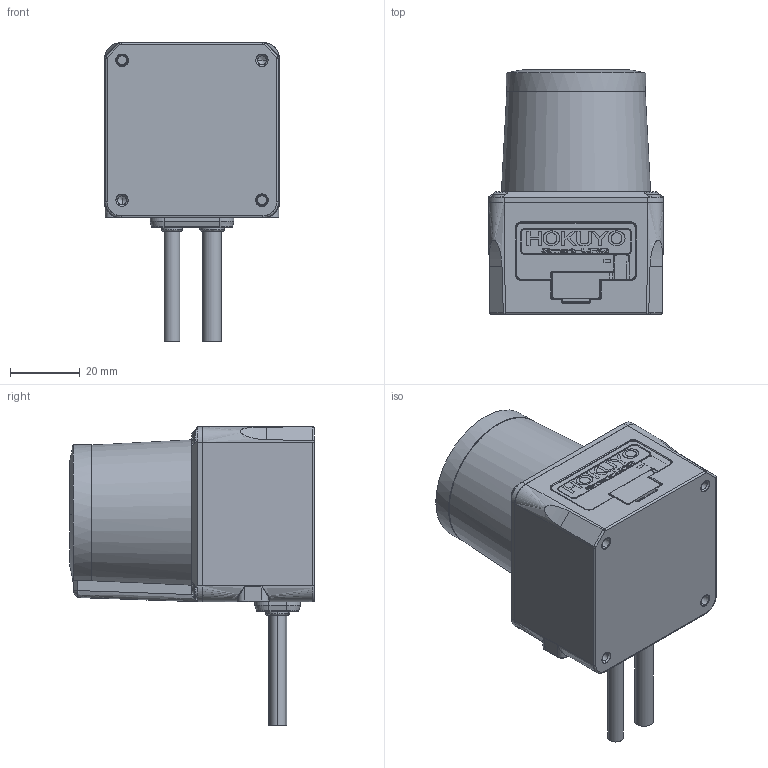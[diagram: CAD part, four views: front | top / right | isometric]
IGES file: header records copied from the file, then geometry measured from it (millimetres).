
Start section: SolidWorks IGES file using analytic representation for surfaces
Bounding box: 50 x 70 x 85.3 mm (x, y, z)
Surface area: 20284 mm2 (no closed solid volume)
Topology: 0 solids, 0 shells, 573 faces, 6056 edges, 6043 vertices
Faces by surface type: bspline 372, revolution 201
